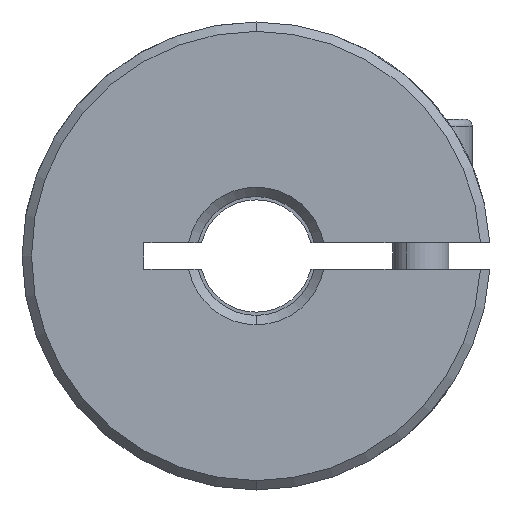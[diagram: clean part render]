
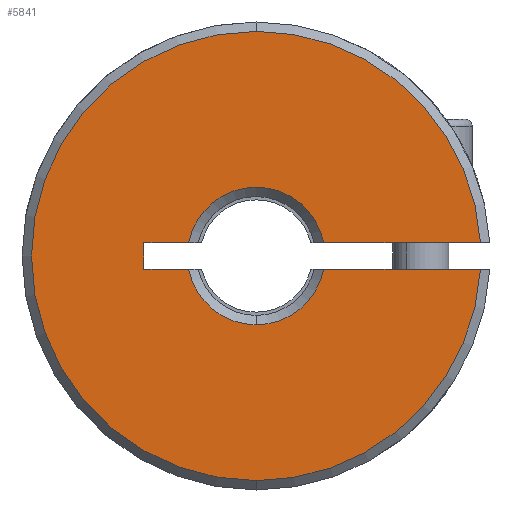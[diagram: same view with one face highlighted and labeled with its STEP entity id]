
A CAD part, front view. The second image highlights one B-rep face of the part: STEP entity #5841.
In plain terms, the highlighted planar face has unit normal (0, -1, 0).
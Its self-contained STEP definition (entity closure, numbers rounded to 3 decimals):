
#18 = AXIS2_PLACEMENT_3D ( 'NONE', #4655, #1820, #78 ) ;
#19 = CARTESIAN_POINT ( 'NONE',  ( -50., 0.25, 17.349 ) ) ;
#54 = DIRECTION ( 'NONE',  ( 0., 1., 0. ) ) ;
#77 = VERTEX_POINT ( 'NONE', #5278 ) ;
#78 = DIRECTION ( 'NONE',  ( 0., 0., 1. ) ) ;
#97 = ORIENTED_EDGE ( 'NONE', *, *, #3028, .F. ) ;
#182 = DIRECTION ( 'NONE',  ( -1., 0., 0. ) ) ;
#189 = VERTEX_POINT ( 'NONE', #4580 ) ;
#259 = EDGE_CURVE ( 'NONE', #1714, #5287, #1879, .T. ) ;
#328 = VECTOR ( 'NONE', #1656, 1000. ) ;
#719 = AXIS2_PLACEMENT_3D ( 'NONE', #843, #2658, #5279 ) ;
#793 = VECTOR ( 'NONE', #2725, 1000. ) ;
#821 = AXIS2_PLACEMENT_3D ( 'NONE', #19, #54, #3612 ) ;
#843 = CARTESIAN_POINT ( 'NONE',  ( 0., 0.25, 0. ) ) ;
#947 = ORIENTED_EDGE ( 'NONE', *, *, #2333, .T. ) ;
#1018 = VERTEX_POINT ( 'NONE', #4569 ) ;
#1062 = EDGE_CURVE ( 'NONE', #5731, #77, #5103, .T. ) ;
#1119 = VERTEX_POINT ( 'NONE', #5093 ) ;
#1154 = DIRECTION ( 'NONE',  ( 0., 0., 1. ) ) ;
#1191 = ORIENTED_EDGE ( 'NONE', *, *, #5418, .F. ) ;
#1304 = CARTESIAN_POINT ( 'NONE',  ( 0., 0.25, 0. ) ) ;
#1305 = CARTESIAN_POINT ( 'NONE',  ( 0., 0.25, -3.675 ) ) ;
#1414 = DIRECTION ( 'NONE',  ( 0., 0., 1. ) ) ;
#1417 = ORIENTED_EDGE ( 'NONE', *, *, #5153, .T. ) ;
#1428 = DIRECTION ( 'NONE',  ( -1., 0., 0. ) ) ;
#1532 = EDGE_CURVE ( 'NONE', #4584, #1119, #5089, .T. ) ;
#1568 = ORIENTED_EDGE ( 'NONE', *, *, #2340, .T. ) ;
#1622 = AXIS2_PLACEMENT_3D ( 'NONE', #1922, #3380, #1154 ) ;
#1656 = DIRECTION ( 'NONE',  ( 0., 0., -1. ) ) ;
#1705 = DIRECTION ( 'NONE',  ( 0., 0., 1. ) ) ;
#1714 = VERTEX_POINT ( 'NONE', #2523 ) ;
#1721 = LINE ( 'NONE', #2173, #2420 ) ;
#1764 = DIRECTION ( 'NONE',  ( 0., 1., 0. ) ) ;
#1820 = DIRECTION ( 'NONE',  ( 0., -1., 0. ) ) ;
#1879 = LINE ( 'NONE', #5498, #328 ) ;
#1922 = CARTESIAN_POINT ( 'NONE',  ( 0., 0.25, 0. ) ) ;
#1995 = EDGE_CURVE ( 'NONE', #2661, #3447, #4561, .T. ) ;
#2021 = LINE ( 'NONE', #4712, #4684 ) ;
#2103 = CARTESIAN_POINT ( 'NONE',  ( 0., 0.25, -12. ) ) ;
#2129 = ORIENTED_EDGE ( 'NONE', *, *, #1995, .T. ) ;
#2173 = CARTESIAN_POINT ( 'NONE',  ( -6., 0.25, -0.7 ) ) ;
#2287 = CARTESIAN_POINT ( 'NONE',  ( -6., 0.25, 0.7 ) ) ;
#2300 = VECTOR ( 'NONE', #1428, 1000. ) ;
#2333 = EDGE_CURVE ( 'NONE', #1018, #4584, #3620, .T. ) ;
#2340 = EDGE_CURVE ( 'NONE', #189, #5731, #3997, .T. ) ;
#2359 = CARTESIAN_POINT ( 'NONE',  ( 11.98, 0.25, 0.7 ) ) ;
#2420 = VECTOR ( 'NONE', #5347, 1000. ) ;
#2523 = CARTESIAN_POINT ( 'NONE',  ( -6., 0.25, 0.7 ) ) ;
#2658 = DIRECTION ( 'NONE',  ( 0., -1., 0. ) ) ;
#2661 = VERTEX_POINT ( 'NONE', #4372 ) ;
#2694 = LINE ( 'NONE', #4498, #793 ) ;
#2725 = DIRECTION ( 'NONE',  ( 1., 0., 0. ) ) ;
#2746 = CARTESIAN_POINT ( 'NONE',  ( 0., 0.25, 0. ) ) ;
#2753 = AXIS2_PLACEMENT_3D ( 'NONE', #2746, #5037, #3604 ) ;
#2763 = CARTESIAN_POINT ( 'NONE',  ( -6., 0.25, -0.7 ) ) ;
#2825 = LINE ( 'NONE', #2287, #2300 ) ;
#2860 = CARTESIAN_POINT ( 'NONE',  ( 0., 0.25, 0. ) ) ;
#2992 = CIRCLE ( 'NONE', #719, 12. ) ;
#3009 = ORIENTED_EDGE ( 'NONE', *, *, #5123, .F. ) ;
#3028 = EDGE_CURVE ( 'NONE', #3330, #3447, #2825, .T. ) ;
#3222 = EDGE_LOOP ( 'NONE', ( #1191, #2129, #97, #1417, #1568, #3514, #5297, #947, #4203, #3009, #5629 ) ) ;
#3228 = EDGE_CURVE ( 'NONE', #1018, #77, #2694, .T. ) ;
#3330 = VERTEX_POINT ( 'NONE', #2359 ) ;
#3380 = DIRECTION ( 'NONE',  ( 0., 1., 0. ) ) ;
#3447 = VERTEX_POINT ( 'NONE', #5823 ) ;
#3514 = ORIENTED_EDGE ( 'NONE', *, *, #1062, .T. ) ;
#3604 = DIRECTION ( 'NONE',  ( 0., 0., 1. ) ) ;
#3612 = DIRECTION ( 'NONE',  ( 0., 0., 1. ) ) ;
#3620 = CIRCLE ( 'NONE', #4376, 3.675 ) ;
#3671 = DIRECTION ( 'NONE',  ( 0., 1., 0. ) ) ;
#3694 = AXIS2_PLACEMENT_3D ( 'NONE', #1304, #1764, #1705 ) ;
#3997 = CIRCLE ( 'NONE', #18, 12. ) ;
#4203 = ORIENTED_EDGE ( 'NONE', *, *, #1532, .T. ) ;
#4372 = CARTESIAN_POINT ( 'NONE',  ( -3.608, 0.25, 0.7 ) ) ;
#4376 = AXIS2_PLACEMENT_3D ( 'NONE', #2860, #3671, #1414 ) ;
#4498 = CARTESIAN_POINT ( 'NONE',  ( -6., 0.25, -0.7 ) ) ;
#4561 = CIRCLE ( 'NONE', #1622, 3.675 ) ;
#4569 = CARTESIAN_POINT ( 'NONE',  ( 3.608, 0.25, -0.7 ) ) ;
#4580 = CARTESIAN_POINT ( 'NONE',  ( 0., 0.25, 12. ) ) ;
#4584 = VERTEX_POINT ( 'NONE', #1305 ) ;
#4655 = CARTESIAN_POINT ( 'NONE',  ( 0., 0.25, 0. ) ) ;
#4684 = VECTOR ( 'NONE', #182, 1000. ) ;
#4712 = CARTESIAN_POINT ( 'NONE',  ( -6., 0.25, 0.7 ) ) ;
#5037 = DIRECTION ( 'NONE',  ( 0., -1., 0. ) ) ;
#5089 = CIRCLE ( 'NONE', #3694, 3.675 ) ;
#5093 = CARTESIAN_POINT ( 'NONE',  ( -3.608, 0.25, -0.7 ) ) ;
#5103 = CIRCLE ( 'NONE', #2753, 12. ) ;
#5123 = EDGE_CURVE ( 'NONE', #5287, #1119, #1721, .T. ) ;
#5153 = EDGE_CURVE ( 'NONE', #3330, #189, #2992, .T. ) ;
#5278 = CARTESIAN_POINT ( 'NONE',  ( 11.98, 0.25, -0.7 ) ) ;
#5279 = DIRECTION ( 'NONE',  ( 0., 0., 1. ) ) ;
#5287 = VERTEX_POINT ( 'NONE', #2763 ) ;
#5297 = ORIENTED_EDGE ( 'NONE', *, *, #3228, .F. ) ;
#5347 = DIRECTION ( 'NONE',  ( 1., 0., 0. ) ) ;
#5418 = EDGE_CURVE ( 'NONE', #2661, #1714, #2021, .T. ) ;
#5474 = FACE_OUTER_BOUND ( 'NONE', #3222, .T. ) ;
#5498 = CARTESIAN_POINT ( 'NONE',  ( -6., 0.25, -0.7 ) ) ;
#5629 = ORIENTED_EDGE ( 'NONE', *, *, #259, .F. ) ;
#5731 = VERTEX_POINT ( 'NONE', #2103 ) ;
#5823 = CARTESIAN_POINT ( 'NONE',  ( 3.608, 0.25, 0.7 ) ) ;
#5841 = ADVANCED_FACE ( 'NONE', ( #5474 ), #5860, .F. ) ;
#5860 = PLANE ( 'NONE',  #821 ) ;
